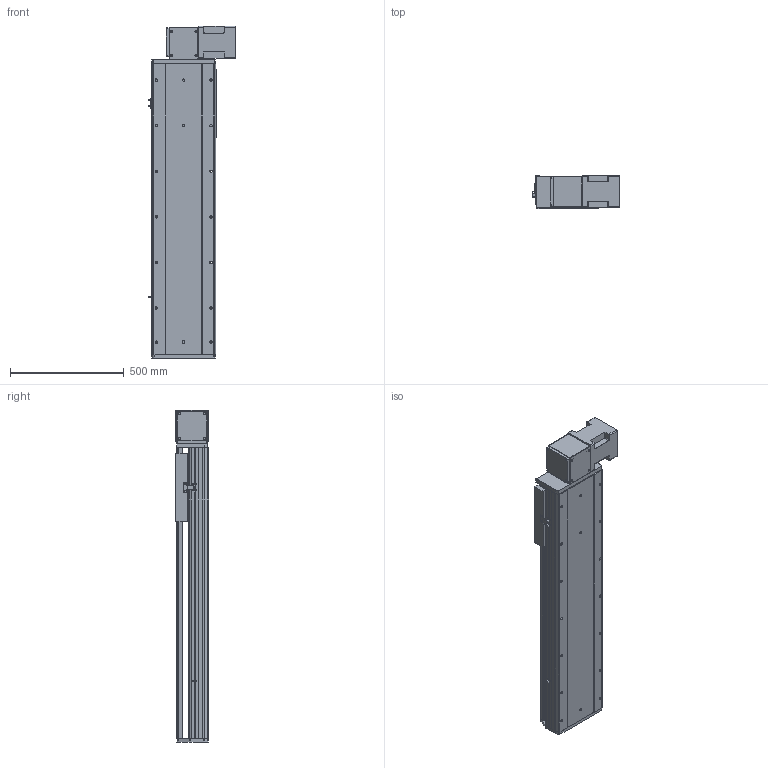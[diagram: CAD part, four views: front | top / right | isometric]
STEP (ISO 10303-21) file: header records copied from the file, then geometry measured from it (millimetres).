
FILE_DESCRIPTION (( 'STEP AP214' ), '1' );
FILE_NAME ('RTB28S-XX-850-BL-M100-XX-C4.STEP', '2025-12-22T02:18:48', ( '' ), ( '' ), 'SwSTEP 2.0', 'SolidWorks 2018', '' );
FILE_SCHEMA (( 'AUTOMOTIVE_DESIGN' ));
Length unit declared in the file: millimetre
Products named in the file (4): RTB28S-GY-008^RTB28S-XX-XX-BL-M100-XX-C4; RTB28S-GY-011^RTB28S-XX-XX-BL-M100-XX-C4; RTB28S-XX-850-BL-M100-XX-C4; RTB28S-GY-004^RTB28S-XX-XX-BL-M100-XX-C4
Assembly tree (3 placements, depth 2):
  RTB28S-XX-850-BL-M100-XX-C4
    RTB28S-GY-011^RTB28S-XX-XX-BL-M100-XX-C4
    RTB28S-GY-004^RTB28S-XX-XX-BL-M100-XX-C4
    RTB28S-GY-008^RTB28S-XX-XX-BL-M100-XX-C4
Bounding box: 380.7 x 145 x 1457 mm (x, y, z)
Volume: 27253380.2 mm3; surface area: 2647909.4 mm2
Topology: 3 solids, 4 shells, 778 faces, 2058 edges, 1308 vertices
Faces by surface type: cylinder 351, plane 343, cone 80, torus 4
Entity records: 29027 total; most frequent: CARTESIAN_POINT 4852, DIRECTION 4356, ORIENTED_EDGE 4052, EDGE_CURVE 2026, AXIS2_PLACEMENT_3D 1568, VERTEX_POINT 1308, LINE 1220, VECTOR 1220
